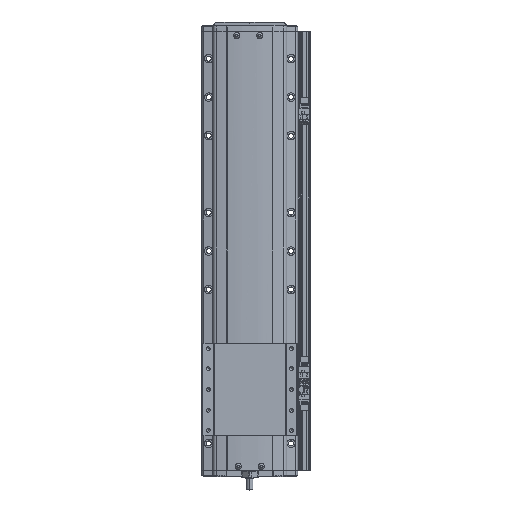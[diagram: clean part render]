
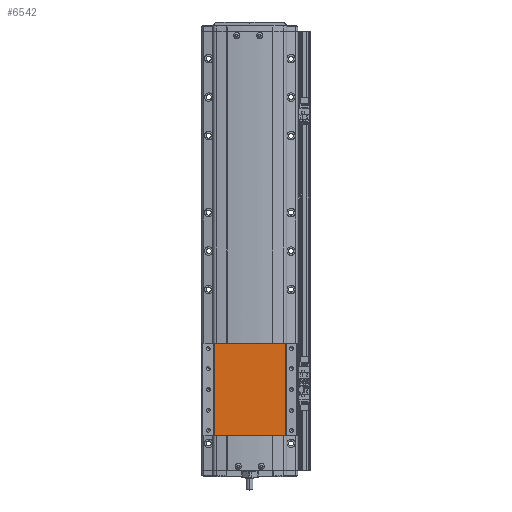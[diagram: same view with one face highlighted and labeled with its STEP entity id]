
A CAD part, top view. The second image highlights one B-rep face of the part: STEP entity #6542.
In plain terms, the highlighted planar face has unit normal (0, 0, 1).
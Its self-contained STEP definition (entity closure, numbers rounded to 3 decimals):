
#6542=ADVANCED_FACE('',(#13517),#13518,.F.);
#13517=FACE_OUTER_BOUND('',#22323,.T.);
#13518=PLANE('',#22324);
#22323=EDGE_LOOP('',(#41317,#41318,#41319,#41320));
#22324=AXIS2_PLACEMENT_3D('',#41321,#41322,#41323);
#41317=ORIENTED_EDGE('',*,*,#52557,.F.);
#41318=ORIENTED_EDGE('',*,*,#46910,.F.);
#41319=ORIENTED_EDGE('',*,*,#46690,.F.);
#41320=ORIENTED_EDGE('',*,*,#52820,.T.);
#41321=CARTESIAN_POINT('',(-300.,-107.778,36.5));
#41322=DIRECTION('',(0.,0.,-1.0));
#41323=DIRECTION('',(-1.0,0.,0.));
#46690=EDGE_CURVE('',#56259,#56261,#56262,.T.);
#46910=EDGE_CURVE('',#56261,#56636,#56639,.T.);
#52557=EDGE_CURVE('',#56636,#64941,#64942,.T.);
#52820=EDGE_CURVE('',#56259,#64941,#65246,.T.);
#56259=VERTEX_POINT('',#69813);
#56261=VERTEX_POINT('',#69815);
#56262=LINE('',#69816,#69817);
#56636=VERTEX_POINT('',#70376);
#56639=LINE('',#70380,#70381);
#64941=VERTEX_POINT('',#82605);
#64942=LINE('',#82606,#82607);
#65246=LINE('',#83029,#83030);
#69813=CARTESIAN_POINT('',(-253.624,-107.778,36.5));
#69815=CARTESIAN_POINT('',(-346.376,-107.778,36.5));
#69816=CARTESIAN_POINT('',(-253.624,-107.778,36.5));
#69817=VECTOR('',#86289,10.0);
#70376=CARTESIAN_POINT('',(-346.376,12.222,36.5));
#70380=CARTESIAN_POINT('',(-346.376,-107.778,36.5));
#70381=VECTOR('',#86572,10.0);
#82605=CARTESIAN_POINT('',(-253.624,12.222,36.5));
#82606=CARTESIAN_POINT('',(-253.624,12.222,36.5));
#82607=VECTOR('',#93111,10.0);
#83029=CARTESIAN_POINT('',(-253.624,-107.778,36.5));
#83030=VECTOR('',#93352,10.0);
#86289=DIRECTION('',(-1.0,0.,0.));
#86572=DIRECTION('',(0.,1.0,0.));
#93111=DIRECTION('',(1.0,0.,0.));
#93352=DIRECTION('',(0.,1.0,0.));
